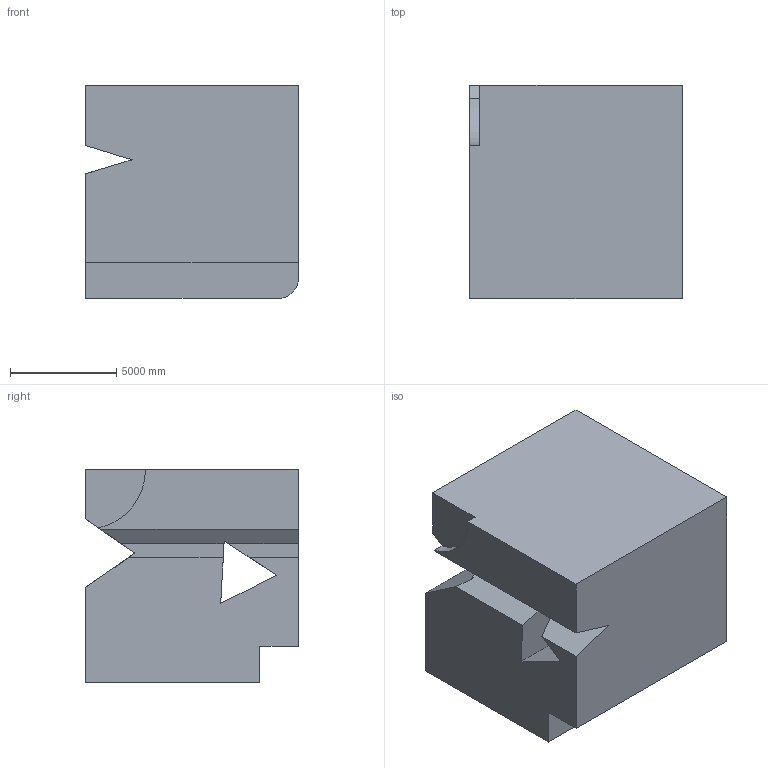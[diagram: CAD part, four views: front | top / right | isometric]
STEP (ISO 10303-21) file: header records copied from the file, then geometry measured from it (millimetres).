
FILE_DESCRIPTION (( 'STEP AP203' ), '1' );
FILE_NAME ('168.STEP', '2022-09-05T15:53:17', ( 'user' ), ( '' ), 'SwSTEP 2.0', 'SolidWorks 2021', '' );
FILE_SCHEMA (( 'CONFIG_CONTROL_DESIGN' ));
Length unit declared in the file: centimetre
Products named in the file (1): 168
Bounding box: 10000 x 10000 x 10000 mm (x, y, z)
Volume: 864899957795 mm3; surface area: 723547974 mm2
Topology: 1 solids, 1 shells, 25 faces, 72 edges, 48 vertices
Faces by surface type: plane 21, cylinder 4
Entity records: 895 total; most frequent: CARTESIAN_POINT 158, ORIENTED_EDGE 144, DIRECTION 128, EDGE_CURVE 72, LINE 60, VECTOR 60, VERTEX_POINT 48, AXIS2_PLACEMENT_3D 34
